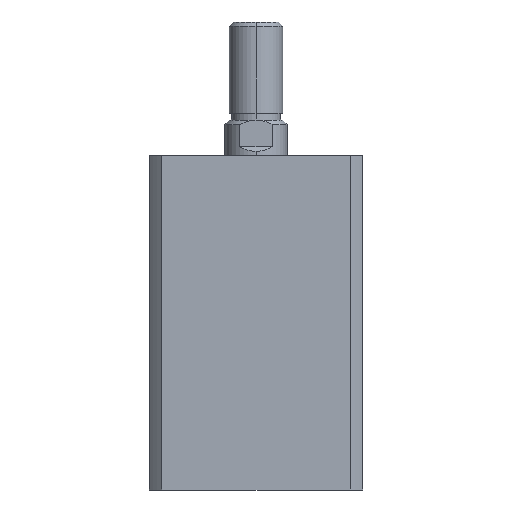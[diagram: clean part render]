
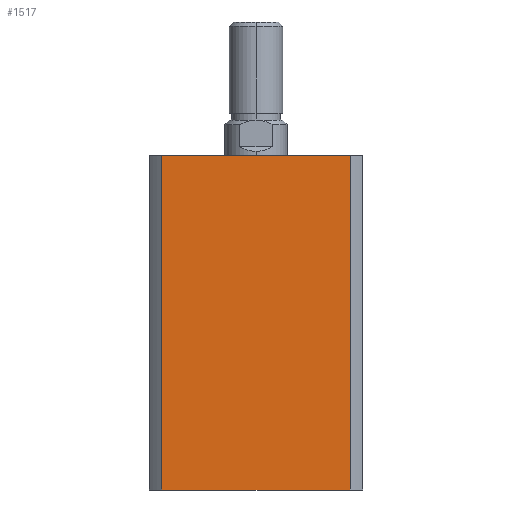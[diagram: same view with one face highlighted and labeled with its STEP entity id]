
A CAD part, left-side view. The second image highlights one B-rep face of the part: STEP entity #1517.
In plain terms, the highlighted planar face has unit normal (-1, 0, 0).
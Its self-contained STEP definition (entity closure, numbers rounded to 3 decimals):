
#180 = FACE_OUTER_BOUND ( 'NONE', #2292, .T. ) ;
#567 = LINE ( 'NONE', #1464, #569 ) ;
#569 = VECTOR ( 'NONE', #1465, 1000. ) ;
#580 = LINE ( 'NONE', #4777, #605 ) ;
#601 = LINE ( 'NONE', #4771, #603 ) ;
#602 = LINE ( 'NONE', #4776, #607 ) ;
#603 = VECTOR ( 'NONE', #4772, 1000. ) ;
#605 = VECTOR ( 'NONE', #4782, 1000. ) ;
#607 = VECTOR ( 'NONE', #4784, 1000. ) ;
#1052 = CARTESIAN_POINT ( 'NONE',  ( -24., -21.166, 0. ) ) ;
#1065 = CARTESIAN_POINT ( 'NONE',  ( -24., 21.166, 0. ) ) ;
#1069 = CARTESIAN_POINT ( 'NONE',  ( -24., -21.166, 75. ) ) ;
#1464 = CARTESIAN_POINT ( 'NONE',  ( -24., 0., 75. ) ) ;
#1465 = DIRECTION ( 'NONE',  ( 0., -1., 0. ) ) ;
#1517 = ADVANCED_FACE ( 'NONE', ( #180 ), #4499, .F. ) ;
#2230 = VERTEX_POINT ( 'NONE', #4266 ) ;
#2292 = EDGE_LOOP ( 'NONE', ( #2883, #2884, #2885, #2886 ) ) ;
#2474 = VERTEX_POINT ( 'NONE', #1052 ) ;
#2489 = VERTEX_POINT ( 'NONE', #1065 ) ;
#2493 = VERTEX_POINT ( 'NONE', #1069 ) ;
#2883 = ORIENTED_EDGE ( 'NONE', *, *, #3211, .T. ) ;
#2884 = ORIENTED_EDGE ( 'NONE', *, *, #3212, .F. ) ;
#2885 = ORIENTED_EDGE ( 'NONE', *, *, #3182, .F. ) ;
#2886 = ORIENTED_EDGE ( 'NONE', *, *, #3213, .T. ) ;
#3182 = EDGE_CURVE ( 'NONE', #2230, #2493, #567, .T. ) ;
#3211 = EDGE_CURVE ( 'NONE', #2489, #2474, #601, .T. ) ;
#3212 = EDGE_CURVE ( 'NONE', #2493, #2474, #580, .T. ) ;
#3213 = EDGE_CURVE ( 'NONE', #2230, #2489, #602, .T. ) ;
#3337 = AXIS2_PLACEMENT_3D ( 'NONE', #4501, #4496, #4495 ) ;
#4266 = CARTESIAN_POINT ( 'NONE',  ( -24., 21.166, 75. ) ) ;
#4495 = DIRECTION ( 'NONE',  ( 0., 0., -1. ) ) ;
#4496 = DIRECTION ( 'NONE',  ( 1., 0., 0. ) ) ;
#4499 = PLANE ( 'NONE',  #3337 ) ;
#4501 = CARTESIAN_POINT ( 'NONE',  ( -24., 0., 75. ) ) ;
#4771 = CARTESIAN_POINT ( 'NONE',  ( -24., 0., 0. ) ) ;
#4772 = DIRECTION ( 'NONE',  ( 0., -1., 0. ) ) ;
#4776 = CARTESIAN_POINT ( 'NONE',  ( -24., 21.166, 75. ) ) ;
#4777 = CARTESIAN_POINT ( 'NONE',  ( -24., -21.166, 75. ) ) ;
#4782 = DIRECTION ( 'NONE',  ( 0., 0., -1. ) ) ;
#4784 = DIRECTION ( 'NONE',  ( 0., 0., -1. ) ) ;
